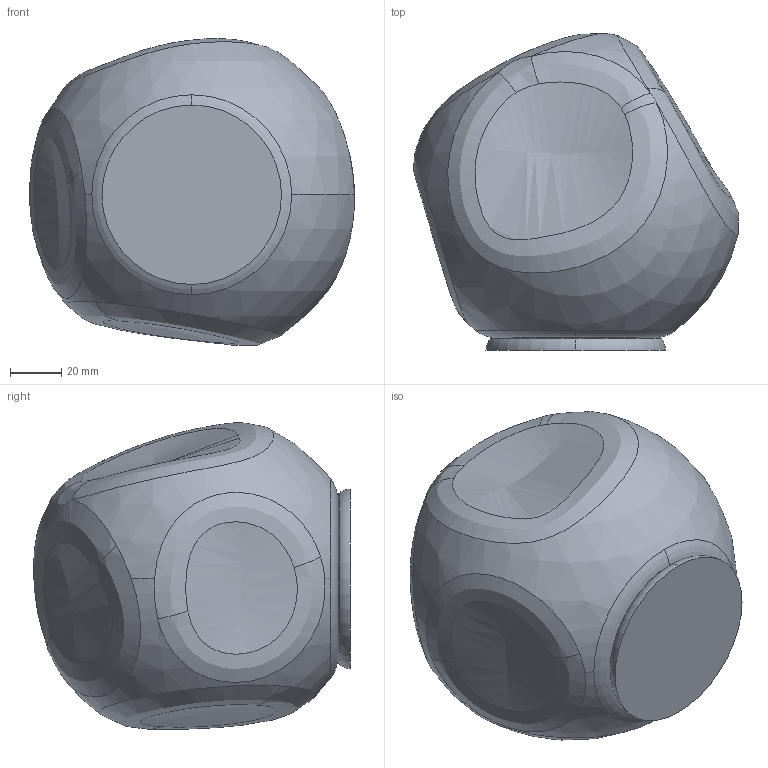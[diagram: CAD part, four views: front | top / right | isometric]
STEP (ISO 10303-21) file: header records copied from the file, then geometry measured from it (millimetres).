
FILE_DESCRIPTION (( 'STEP AP203' ), '1' );
FILE_NAME ('325_PICCOLA_WC_PL_3D.STEP', '2023-12-13T11:27:36', ( '' ), ( '' ), 'SwSTEP 2.0', 'SolidWorks 2023', '' );
FILE_SCHEMA (( 'CONFIG_CONTROL_DESIGN' ));
Length unit declared in the file: millimetre
Products named in the file (1): 325_PICCOLA_WC_PL_3D
Bounding box: 126.81 x 123.52 x 119.57 mm (x, y, z)
Volume: 65590.6 mm3; surface area: 104456.2 mm2
Topology: 2 solids, 2 shells, 54 faces, 132 edges, 84 vertices
Faces by surface type: bspline 34, torus 8, sphere 6, plane 4, cylinder 2
Entity records: 15592 total; most frequent: CARTESIAN_POINT 14470, ORIENTED_EDGE 256, DIRECTION 160, EDGE_CURVE 128, VERTEX_POINT 82, AXIS2_PLACEMENT_3D 79, B_SPLINE_CURVE_WITH_KNOTS 68, EDGE_LOOP 58
